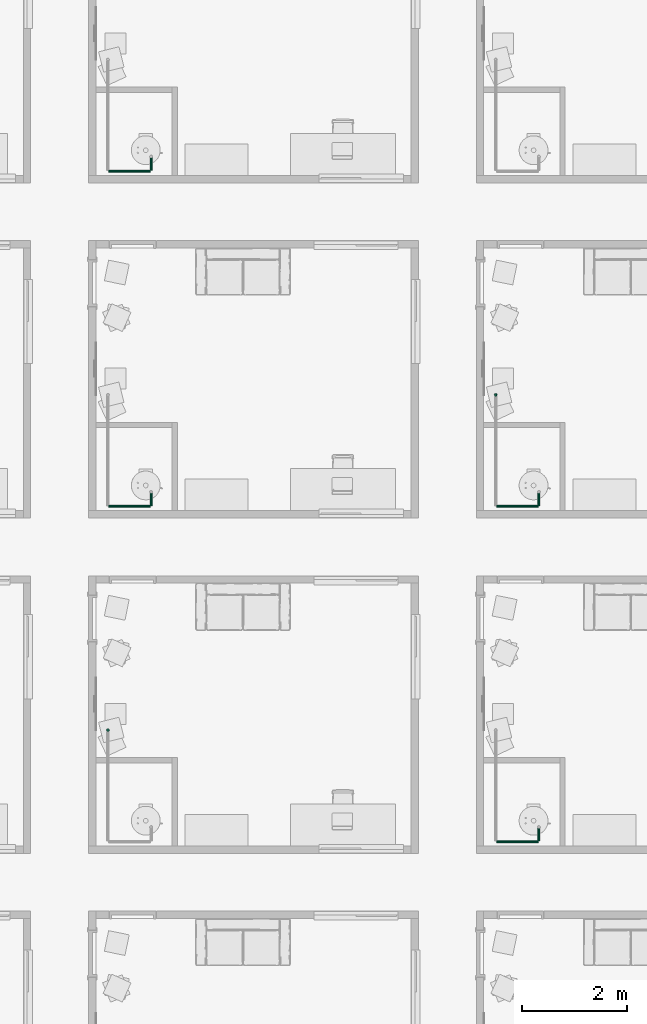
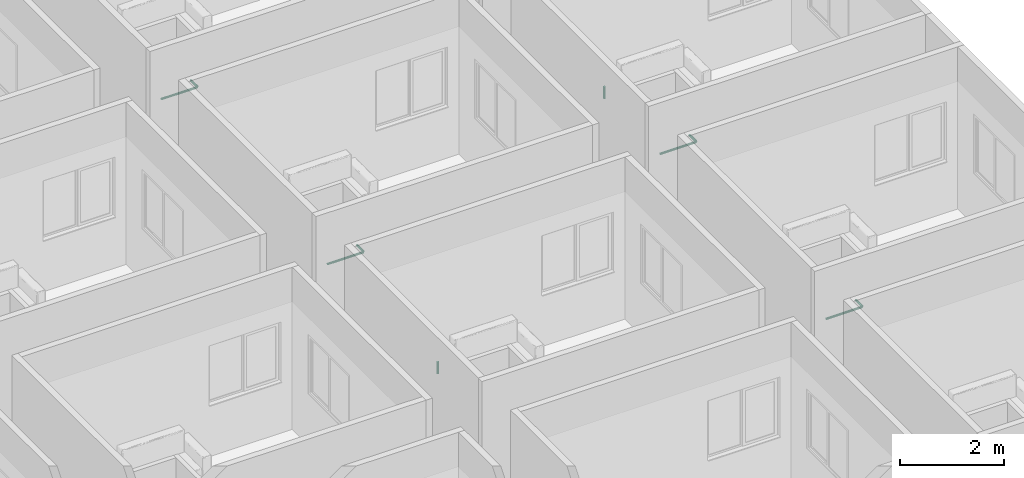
# One storey, part 51 of 71: 10 pipe segments.
"""IFC4 building model written with IfcOpenShell, lengths in centimetres."""

from ifc_helpers import new_model, entity, si_unit, converted_unit, derived_unit, direction, frame, origin, place, context, subcontext, project, spatial, arc, indexed_curve, outline, extrude, type_object, element, save


model = new_model("IFC4")

# Units and contexts
model_context = context("Model", 3, precision=0.001, world=origin(), true_north=direction((6.123233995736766e-17, 1.0)))
body_context = subcontext(model_context, "Body", "Model", "MODEL_VIEW")
ifc_project = project(units=[si_unit("LENGTHUNIT", "METRE", prefix="CENTI"), si_unit("AREAUNIT", "SQUARE_METRE"), si_unit("VOLUMEUNIT", "CUBIC_METRE"), derived_unit("THERMALTRANSMITTANCEUNIT", [(si_unit("MASSUNIT", "GRAM", prefix="KILO"), 1), (si_unit("THERMODYNAMICTEMPERATUREUNIT", "KELVIN"), -1), (si_unit("TIMEUNIT", "SECOND"), -3)]), converted_unit("PLANEANGLEUNIT", "DEGREE", entity("IfcPlaneAngleMeasure", 0.017453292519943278), si_unit("PLANEANGLEUNIT", "RADIAN"), dimensions=[0, 0, 0, 0, 0, 0, 0]), derived_unit("MASSDENSITYUNIT", [(si_unit("MASSUNIT", "GRAM", prefix="KILO"), 1), (si_unit("LENGTHUNIT", "METRE"), -3)]), derived_unit("VAPORPERMEABILITYUNIT", [(si_unit("LENGTHUNIT", "METRE"), -1), (si_unit("TIMEUNIT", "SECOND"), 1)]), derived_unit("USERDEFINED", [(si_unit("MASSUNIT", "GRAM", prefix="KILO"), 1), (si_unit("TIMEUNIT", "SECOND"), -3), (si_unit("LENGTHUNIT", "METRE"), 3), (si_unit("ELECTRICCURRENTUNIT", "AMPERE"), -2)]), derived_unit("SPECIFICHEATCAPACITYUNIT", [(si_unit("THERMODYNAMICTEMPERATUREUNIT", "KELVIN"), -1), (si_unit("LENGTHUNIT", "METRE"), 2), (si_unit("TIMEUNIT", "SECOND"), -2)]), derived_unit("THERMALCONDUCTANCEUNIT", [(si_unit("MASSUNIT", "GRAM", prefix="KILO"), 1), (si_unit("THERMODYNAMICTEMPERATUREUNIT", "KELVIN"), -1), (si_unit("TIMEUNIT", "SECOND"), -3), (si_unit("LENGTHUNIT", "METRE"), 1)]), si_unit("PRESSUREUNIT", "PASCAL"), derived_unit("MODULUSOFELASTICITYUNIT", [(si_unit("MASSUNIT", "GRAM", prefix="KILO"), 1), (si_unit("LENGTHUNIT", "METRE"), -1), (si_unit("TIMEUNIT", "SECOND"), -2)]), derived_unit("THERMALEXPANSIONCOEFFICIENTUNIT", [(si_unit("THERMODYNAMICTEMPERATUREUNIT", "KELVIN"), -1)])], contexts=[model_context])

# Site, building, storey
site_placement = place(None, origin())
site = spatial("IfcSite", under=ifc_project, at=site_placement, Name="Default", CompositionType="ELEMENT")
building_placement = place(site_placement, origin())
building = spatial("IfcBuilding", under=site, at=building_placement, Name="IDS Escape Game Building", CompositionType="ELEMENT")
storey_placement = place(building_placement, frame((0.0, 0.0, 400.0)))
storey = spatial("IfcBuildingStorey", under=building, at=storey_placement, Name="01_First Floor", CompositionType="ELEMENT", Elevation=399.99999999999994)

# Pipe segments
pipe_segment_type = type_object("IfcPipeSegmentType", Name="Pipe Types:Piping Aluminum", PredefinedType="NOTDEFINED")
pipe_segment_1_placement = place(storey_placement, origin())
element("IfcPipeSegment", 1, at=pipe_segment_1_placement, inside=storey, type_object=pipe_segment_type, Name="Pipe Types:Piping Aluminum", ObjectType="Pipe Types:Piping Aluminum", PredefinedType="NOTDEFINED", context=body_context, shape_type="SweptSolid", body=[
    extrude(outline(indexed_curve([(2.412999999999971, 0.0), (1.7062486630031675, 1.7062486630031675), (0.0, 2.412999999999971), (-1.7062486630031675, 1.7062486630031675), (-2.412999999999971, 0.0), (-1.7062486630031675, -1.7062486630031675), (0.0, -2.412999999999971), (1.7062486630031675, -1.7062486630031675)], segments=[arc(1, 2, 3), arc(3, 4, 5), arc(5, 6, 7), arc(7, 8, 1)], self_intersect=False)), frame((3720.0467168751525, 1509.2648279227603, 244.09999999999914), z_axis=(0.0, 0.0, 1.0), x_axis=(-1.0, 0.0, 0.0)), (0.0, 0.0, 1.0), 27.900000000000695),
])
pipe_segment_2_placement = place(storey_placement, origin())
element("IfcPipeSegment", 2, at=pipe_segment_2_placement, inside=storey, type_object=pipe_segment_type, Name="Pipe Types:Piping Aluminum", ObjectType="Pipe Types:Piping Aluminum", PredefinedType="NOTDEFINED", context=body_context, shape_type="SweptSolid", body=[
    extrude(outline(indexed_curve([(2.412999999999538, -2.165734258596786e-13), (1.7062486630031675, 1.7062486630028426), (4.331468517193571e-13, 2.4130000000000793), (-1.706248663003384, 1.7062486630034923), (-2.4130000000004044, -2.165734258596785e-13), (-1.7062486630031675, -1.7062486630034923), (4.3314685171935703e-13, -2.412999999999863), (1.7062486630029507, -1.7062486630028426)], segments=[arc(1, 2, 3), arc(3, 4, 5), arc(5, 6, 7), arc(7, 8, 1)], self_intersect=False)), frame((4459.146716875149, 1297.2648279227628, 242.0), z_axis=(1.0, 0.0, 0.0), x_axis=(0.0, 1.0, 0.0)), (0.0, 0.0, 1.0), 79.90328312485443),
])
pipe_segment_3_placement = place(storey_placement, origin())
element("IfcPipeSegment", 3, at=pipe_segment_3_placement, inside=storey, type_object=pipe_segment_type, Name="Pipe Types:Piping Aluminum", ObjectType="Pipe Types:Piping Aluminum", PredefinedType="NOTDEFINED", context=body_context, shape_type="SweptSolid", body=[
    extrude(outline(indexed_curve([(2.412999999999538, 0.0), (1.7062486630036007, 1.706248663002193), (1.7325874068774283e-12, 2.412999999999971), (-1.7062486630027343, 1.7062486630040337), (-2.413000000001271, 0.0), (-1.7062486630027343, -1.7062486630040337), (1.7325874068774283e-12, -2.412999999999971), (1.7062486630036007, -1.706248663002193)], segments=[arc(1, 2, 3), arc(3, 4, 5), arc(5, 6, 7), arc(7, 8, 1)], self_intersect=False)), frame((4540.150000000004, 1298.3648279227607, 242.0), z_axis=(0.0, 1.0, 0.0), x_axis=(-1.0, 0.0, 0.0)), (0.0, 0.0, 1.0), 25.43517207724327),
])
pipe_segment_4_placement = place(storey_placement, origin())
element("IfcPipeSegment", 4, at=pipe_segment_4_placement, inside=storey, type_object=pipe_segment_type, Name="Pipe Types:Piping Aluminum", ObjectType="Pipe Types:Piping Aluminum", PredefinedType="NOTDEFINED", context=body_context, shape_type="SweptSolid", body=[
    extrude(outline(indexed_curve([(2.412999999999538, -2.165734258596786e-13), (1.7062486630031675, 1.7062486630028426), (4.331468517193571e-13, 2.4130000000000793), (-1.706248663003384, 1.7062486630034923), (-2.4130000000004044, -2.165734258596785e-13), (-1.7062486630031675, -1.7062486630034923), (4.3314685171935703e-13, -2.412999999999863), (1.7062486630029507, -1.7062486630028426)], segments=[arc(1, 2, 3), arc(3, 4, 5), arc(5, 6, 7), arc(7, 8, 1)], self_intersect=False)), frame((3721.1467168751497, 1935.2648279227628, 242.0), z_axis=(1.0, 0.0, 0.0), x_axis=(0.0, 1.0, 0.0)), (0.0, 0.0, 1.0), 79.90328312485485),
])
pipe_segment_5_placement = place(storey_placement, origin())
element("IfcPipeSegment", 5, at=pipe_segment_5_placement, inside=storey, type_object=pipe_segment_type, Name="Pipe Types:Piping Aluminum", ObjectType="Pipe Types:Piping Aluminum", PredefinedType="NOTDEFINED", context=body_context, shape_type="SweptSolid", body=[
    extrude(outline(indexed_curve([(2.4129999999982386, 0.0), (1.706248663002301, 1.7062486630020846), (1.2994405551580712e-12, 2.412999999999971), (-1.7062486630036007, 1.7062486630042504), (-2.413000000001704, 0.0), (-1.7062486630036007, -1.7062486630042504), (1.2994405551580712e-12, -2.412999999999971), (1.706248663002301, -1.7062486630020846)], segments=[arc(1, 2, 3), arc(3, 4, 5), arc(5, 6, 7), arc(7, 8, 1)], self_intersect=False)), frame((3802.150000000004, 1936.3648279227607, 242.0), z_axis=(0.0, 1.0, 0.0), x_axis=(-1.0, 0.0, 0.0)), (0.0, 0.0, 1.0), 25.435172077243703),
])
pipe_segment_6_placement = place(storey_placement, origin())
element("IfcPipeSegment", 6, at=pipe_segment_6_placement, inside=storey, type_object=pipe_segment_type, Name="Pipe Types:Piping Aluminum", ObjectType="Pipe Types:Piping Aluminum", PredefinedType="NOTDEFINED", context=body_context, shape_type="SweptSolid", body=[
    extrude(outline(indexed_curve([(2.412999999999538, -2.165734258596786e-13), (1.7062486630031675, 1.7062486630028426), (4.331468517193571e-13, 2.4130000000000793), (-1.706248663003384, 1.7062486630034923), (-2.4130000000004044, -2.165734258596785e-13), (-1.7062486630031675, -1.7062486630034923), (4.3314685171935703e-13, -2.412999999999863), (1.7062486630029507, -1.7062486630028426)], segments=[arc(1, 2, 3), arc(3, 4, 5), arc(5, 6, 7), arc(7, 8, 1)], self_intersect=False)), frame((4459.146716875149, 1935.2648279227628, 242.0), z_axis=(1.0, 0.0, 0.0), x_axis=(0.0, 1.0, 0.0)), (0.0, 0.0, 1.0), 79.90328312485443),
])
pipe_segment_7_placement = place(storey_placement, origin())
element("IfcPipeSegment", 7, at=pipe_segment_7_placement, inside=storey, type_object=pipe_segment_type, Name="Pipe Types:Piping Aluminum", ObjectType="Pipe Types:Piping Aluminum", PredefinedType="NOTDEFINED", context=body_context, shape_type="SweptSolid", body=[
    extrude(outline(indexed_curve([(2.412999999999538, 0.0), (1.7062486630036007, 1.706248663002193), (1.7325874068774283e-12, 2.412999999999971), (-1.7062486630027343, 1.7062486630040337), (-2.413000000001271, 0.0), (-1.7062486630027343, -1.7062486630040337), (1.7325874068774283e-12, -2.412999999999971), (1.7062486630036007, -1.706248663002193)], segments=[arc(1, 2, 3), arc(3, 4, 5), arc(5, 6, 7), arc(7, 8, 1)], self_intersect=False)), frame((4540.150000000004, 1936.3648279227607, 242.0), z_axis=(0.0, 1.0, 0.0), x_axis=(-1.0, 0.0, 0.0)), (0.0, 0.0, 1.0), 25.435172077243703),
])
pipe_segment_8_placement = place(storey_placement, origin())
element("IfcPipeSegment", 8, at=pipe_segment_8_placement, inside=storey, type_object=pipe_segment_type, Name="Pipe Types:Piping Aluminum", ObjectType="Pipe Types:Piping Aluminum", PredefinedType="NOTDEFINED", context=body_context, shape_type="SweptSolid", body=[
    extrude(outline(indexed_curve([(2.4130000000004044, -4.331468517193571e-13), (1.7062486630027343, 1.7062486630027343), (0.0, 2.412999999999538), (-1.7062486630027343, 1.7062486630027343), (-2.4130000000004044, -4.331468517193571e-13), (-1.7062486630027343, -1.7062486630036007), (0.0, -2.4130000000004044), (1.7062486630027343, -1.7062486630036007)], segments=[arc(1, 2, 3), arc(3, 4, 5), arc(5, 6, 7), arc(7, 8, 1)], self_intersect=False)), frame((4458.046716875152, 2147.26482792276, 244.09999999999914), z_axis=(0.0, 0.0, 1.0), x_axis=(-1.0, 0.0, 0.0)), (0.0, 0.0, 1.0), 27.900000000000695),
])
pipe_segment_9_placement = place(storey_placement, origin())
element("IfcPipeSegment", 9, at=pipe_segment_9_placement, inside=storey, type_object=pipe_segment_type, Name="Pipe Types:Piping Aluminum", ObjectType="Pipe Types:Piping Aluminum", PredefinedType="NOTDEFINED", context=body_context, shape_type="SweptSolid", body=[
    extrude(outline(indexed_curve([(2.412999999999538, -2.165734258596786e-13), (1.7062486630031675, 1.7062486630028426), (4.331468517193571e-13, 2.4130000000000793), (-1.7062486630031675, 1.7062486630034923), (-2.4130000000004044, -2.165734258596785e-13), (-1.7062486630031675, -1.7062486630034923), (4.3314685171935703e-13, -2.412999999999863), (1.7062486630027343, -1.7062486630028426)], segments=[arc(1, 2, 3), arc(3, 4, 5), arc(5, 6, 7), arc(7, 8, 1)], self_intersect=False)), frame((3721.1467168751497, 2573.264827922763, 242.0), z_axis=(1.0, 0.0, 0.0), x_axis=(0.0, 1.0, 0.0)), (0.0, 0.0, 1.0), 79.90328312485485),
])
pipe_segment_10_placement = place(storey_placement, origin())
element("IfcPipeSegment", 10, at=pipe_segment_10_placement, inside=storey, type_object=pipe_segment_type, Name="Pipe Types:Piping Aluminum", ObjectType="Pipe Types:Piping Aluminum", PredefinedType="NOTDEFINED", context=body_context, shape_type="SweptSolid", body=[
    extrude(outline(indexed_curve([(2.4129999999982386, 0.0), (1.706248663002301, 1.7062486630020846), (1.2994405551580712e-12, 2.412999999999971), (-1.7062486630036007, 1.7062486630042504), (-2.413000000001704, 0.0), (-1.7062486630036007, -1.7062486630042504), (1.2994405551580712e-12, -2.412999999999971), (1.706248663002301, -1.7062486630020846)], segments=[arc(1, 2, 3), arc(3, 4, 5), arc(5, 6, 7), arc(7, 8, 1)], self_intersect=False)), frame((3802.150000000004, 2574.364827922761, 242.0), z_axis=(0.0, 1.0, 0.0), x_axis=(-1.0, 0.0, 0.0)), (0.0, 0.0, 1.0), 25.43517207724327),
])

save(model, "model.ifc")
